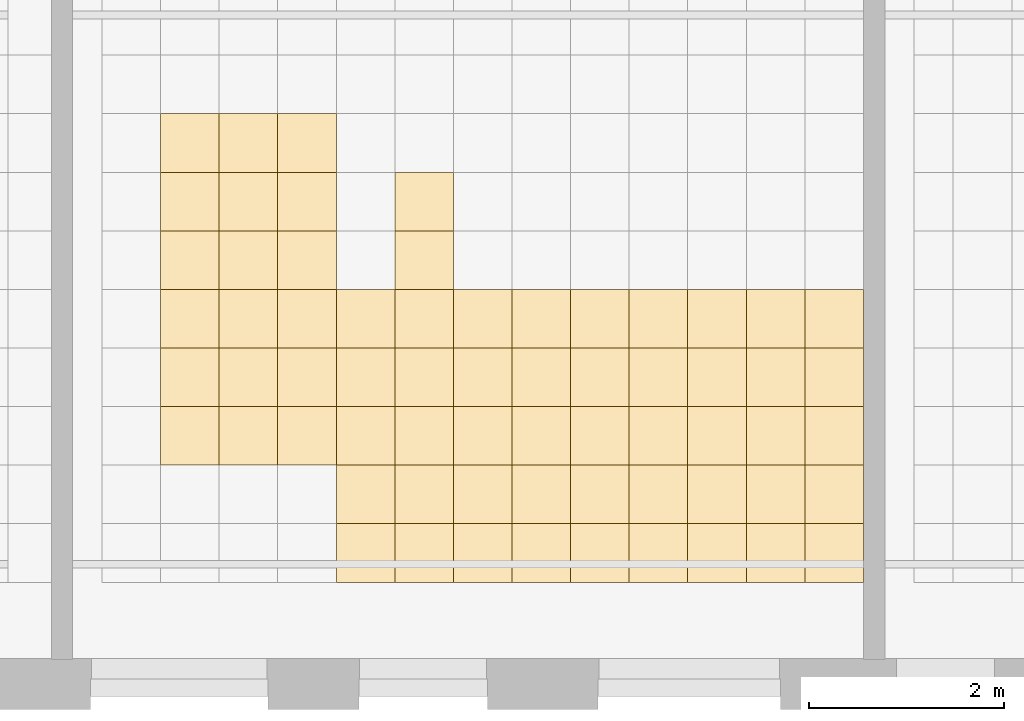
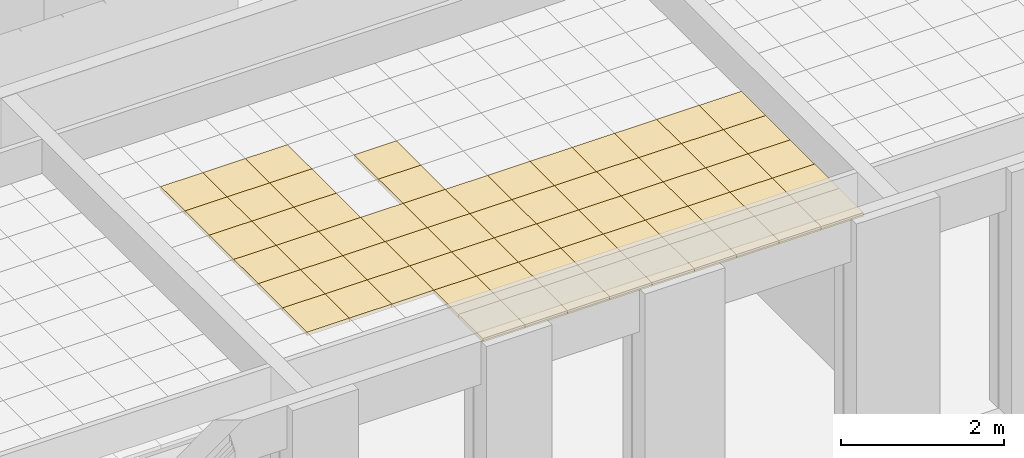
# One storey, part 68 of 79: 65 coverings.
"""IFC2X3 building model written with IfcOpenShell, lengths in millimetres."""

import ifcopenshell
import ifcopenshell.guid

model = None  # the IFC model being written
_history = None  # IfcOwnerHistory: only IFC2X3 demands one
_inside = {}  # id of a spatial element -> (the spatial element, [elements in it])
_under = {}  # id of a project, library or spatial element -> (it, [spatial elements below it])
_declared = {}  # id of a project -> (the project, [libraries it declares])
_typed = {}  # id of a type object -> (the type object, [elements of that type])
_made_of = {}  # id of a material, layer set ... -> (it, [elements and type objects made of it])


def new_model(schema):
    """Start an empty IFC model of exactly this schema.

    Asked for "IFC4X3", IfcOpenShell would pick the latest addendum, in which some entities
    have other attributes; the version numbers below select the first issue.
    IFC2X3 requires an IfcOwnerHistory on every rooted entity: one is made here for all.
    """
    global model, _history
    if schema == "IFC4X3":
        model = ifcopenshell.file(schema_version=(4, 3, 0, 0))
    else:
        model = ifcopenshell.file(schema=schema)
    _inside.clear()
    _under.clear()
    _declared.clear()
    _typed.clear()
    _made_of.clear()
    _history = None
    if model.schema == "IFC2X3":
        org = make("IfcOrganization", Name="unknown")
        user = make(
            "IfcPersonAndOrganization",
            ThePerson=make("IfcPerson", FamilyName="unknown"),
            TheOrganization=org,
        )
        app = make(
            "IfcApplication",
            ApplicationDeveloper=org,
            Version="unknown",
            ApplicationFullName="unknown",
            ApplicationIdentifier="unknown",
        )
        _history = make(
            "IfcOwnerHistory",
            OwningUser=user,
            OwningApplication=app,
            ChangeAction="ADDED",
            CreationDate=0,
        )
    return model


def make(cls, **values):
    """One entity of the class cls with the attributes given. An attribute that is None is left unset."""
    return model.create_entity(
        cls, **{name: value for name, value in values.items() if value is not None}
    )


def entity(cls, *values):
    """Any entity or typed value of the class cls, its attributes in the order of the schema. None: left unset."""
    e = model.create_entity(cls)
    for i, value in enumerate(values):
        if value is not None:
            e[i] = value
    return e


def rooted(cls, **values):
    """An entity with a GlobalId (a new one), such as an element, a storey or a relation."""
    return make(cls, GlobalId=ifcopenshell.guid.new(), OwnerHistory=_history, **values)


def si_unit(unit_type, name, prefix=None):
    """IfcSIUnit, for example si_unit("LENGTHUNIT", "METRE", prefix="MILLI")."""
    return make("IfcSIUnit", UnitType=unit_type, Prefix=prefix, Name=name)


def converted_unit(unit_type, name, factor, base, dimensions=None, offset=None):
    """IfcConversionBasedUnit, such as the inch: factor (a typed value) times the base unit."""
    return make(
        "IfcConversionBasedUnit"
        if offset is None
        else "IfcConversionBasedUnitWithOffset",
        ConversionOffset=offset,
        Dimensions=None
        if dimensions is None
        else entity("IfcDimensionalExponents", *dimensions),
        UnitType=unit_type,
        Name=name,
        ConversionFactor=make(
            "IfcMeasureWithUnit", ValueComponent=factor, UnitComponent=base
        ),
    )


def derived_unit(unit_type, elements):
    """IfcDerivedUnit: a product of units, each with its exponent."""
    return make(
        "IfcDerivedUnit",
        Elements=[
            make("IfcDerivedUnitElement", Unit=unit, Exponent=power)
            for unit, power in elements
        ],
        UnitType=unit_type,
    )


def money_unit(currency):
    """IfcMonetaryUnit."""
    return make("IfcMonetaryUnit", Currency=currency)


def assignment(units):
    """IfcUnitAssignment: the units of a project."""
    return None if units is None else make("IfcUnitAssignment", Units=units)


def point(xyz):
    """IfcCartesianPoint."""
    return None if xyz is None else make("IfcCartesianPoint", Coordinates=xyz)


def direction(xyz):
    """IfcDirection."""
    return None if xyz is None else make("IfcDirection", DirectionRatios=xyz)


def frame(location, z_axis=None, x_axis=None):
    """IfcAxis2Placement3D, a coordinate frame: its origin and axes. An axis left out is left unset."""
    return make(
        "IfcAxis2Placement3D",
        Location=point(location),
        Axis=direction(z_axis),
        RefDirection=direction(x_axis),
    )


def origin_with_axes():
    """The frame at (0, 0, 0) with the z axis (0, 0, 1) and the x axis (1, 0, 0) written out."""
    return frame((0.0, 0.0, 0.0), z_axis=(0.0, 0.0, 1.0), x_axis=(1.0, 0.0, 0.0))


def place(relative_to, where):
    """IfcLocalPlacement: puts the frame where relative to a parent placement (None: the world)."""
    return make(
        "IfcLocalPlacement", PlacementRelTo=relative_to, RelativePlacement=where
    )


def context(
    kind, dimensions, precision=None, world=None, true_north=None, identifier=None
):
    """IfcGeometricRepresentationContext, for example the 3D "Model" context."""
    return make(
        "IfcGeometricRepresentationContext",
        ContextIdentifier=identifier,
        ContextType=kind,
        CoordinateSpaceDimension=dimensions,
        Precision=precision,
        WorldCoordinateSystem=world,
        TrueNorth=true_north,
    )


def subcontext(parent, identifier, kind, view, scale=None):
    """IfcGeometricRepresentationSubContext, for example "Body" below "Model"."""
    return make(
        "IfcGeometricRepresentationSubContext",
        ContextIdentifier=identifier,
        ContextType=kind,
        ParentContext=parent,
        TargetScale=scale,
        TargetView=view,
    )


def project(units=None, contexts=None):
    """IfcProject with its units and contexts."""
    return rooted(
        "IfcProject",
        Name="project",
        RepresentationContexts=contexts,
        UnitsInContext=assignment(units),
    )


def spatial(cls, under=None, at=None, **own):
    """A site, building, storey or space (cls), placed at a placement, below another one or the project."""
    s = rooted(cls, ObjectPlacement=at, **own)
    if under is not None:
        _under.setdefault(under.id(), (under, []))[1].append(s)
    return s


def faces_of(points, faces, orient=None, outer=None):
    """IfcFace entities. A face is a list of loops; a loop is a list of indices into points, from 0.

    orient and outer hold one flag for each loop. By default every Orientation is true, the
    first loop of a face is its IfcFaceOuterBound and the others are IfcFaceBound.
    """
    made = []
    for i, loops in enumerate(faces):
        bounds = []
        for j, loop in enumerate(loops):
            is_outer = j == 0 if outer is None else outer[i][j]
            bounds.append(
                make(
                    "IfcFaceOuterBound" if is_outer else "IfcFaceBound",
                    Bound=make("IfcPolyLoop", Polygon=[points[k] for k in loop]),
                    Orientation=True if orient is None else orient[i][j],
                )
            )
        made.append(make("IfcFace", Bounds=bounds))
    return made


def faceted_brep(points, faces, orient=None, outer=None, voids=None):
    """IfcFacetedBrep: a solid bounded by flat faces; with voids (closed shells), ...WithVoids."""
    shared = [point(p) for p in points]
    hull = make("IfcClosedShell", CfsFaces=faces_of(shared, faces, orient, outer))
    if voids is None:
        return make("IfcFacetedBrep", Outer=hull)
    return make(
        "IfcFacetedBrepWithVoids",
        Outer=hull,
        Voids=[
            make(cls, CfsFaces=faces_of(shared, fs, o, b)) for cls, fs, o, b in voids
        ],
    )


def shape(context_of_items, identifier, shape_type, items):
    """IfcShapeRepresentation: the items that make up one representation, for example the "Body"."""
    return make(
        "IfcShapeRepresentation",
        ContextOfItems=context_of_items,
        RepresentationIdentifier=identifier,
        RepresentationType=shape_type,
        Items=items,
    )


def material(Name=None, Category=None):
    """IfcMaterial."""
    return make("IfcMaterial", Name=Name, Category=Category)


def material_list(materials):
    """IfcMaterialList."""
    return make("IfcMaterialList", Materials=materials)


def made_of(thing, what):
    """Note that an element or type object is made of a material, layer set ...; save() writes the relation."""
    if what is not None:
        _made_of.setdefault(what.id(), (what, []))[1].append(thing)
    return thing


def type_object(cls, material=None, **own):
    """A type object (cls), such as IfcWallType, which elements share."""
    return made_of(rooted(cls, **own), material)


def element(
    cls,
    number,
    at=None,
    inside=None,
    cuts=None,
    type_object=None,
    material=None,
    context=None,
    identifier="Body",
    shape_type=None,
    held_by="IfcProductDefinitionShape",
    body=None,
    shapes=None,
    **own,
):
    """One element of the class cls, such as IfcWall. Its Tag is "e" and its number.

    at: its placement. inside: the storey or other place that contains it. cuts: it is an
    opening in that element (IfcRelVoidsElement). A single representation is given by context,
    identifier, shape_type and body (its items); several are given by shapes. held_by: the class
    of the entity that holds the representations. save() writes the other relations.
    """
    e = rooted(cls, Tag="e%d" % number, ObjectPlacement=at, **own)
    if body is not None:
        shapes = [shape(context, identifier, shape_type, body)]
    if shapes is not None:
        e.Representation = make(held_by, Representations=shapes)
    if inside is not None:
        _inside.setdefault(inside.id(), (inside, []))[1].append(e)
    if cuts is not None:
        rooted(
            "IfcRelVoidsElement", RelatingBuildingElement=cuts, RelatedOpeningElement=e
        )
    if type_object is not None:
        _typed.setdefault(type_object.id(), (type_object, []))[1].append(e)
    return made_of(e, material)


def aggregate(whole, parts):
    """IfcRelAggregates: a whole, such as a stair, and the parts it consists of."""
    return rooted("IfcRelAggregates", RelatingObject=whole, RelatedObjects=parts)


def save(model, path):
    """Write the relations noted so far, then the file.

    IfcRelAggregates (storeys below a building ...), IfcRelContainedInSpatialStructure (elements
    in a storey), IfcRelDefinesByType, IfcRelAssociatesMaterial and IfcRelDeclares: one each for
    every whole, place, type object, material and project.
    """
    for whole, parts in _under.values():
        aggregate(whole, parts)
    for where, things in _inside.values():
        rooted(
            "IfcRelContainedInSpatialStructure",
            RelatedElements=things,
            RelatingStructure=where,
        )
    for kind, things in _typed.values():
        rooted("IfcRelDefinesByType", RelatedObjects=things, RelatingType=kind)
    for what, things in _made_of.values():
        rooted("IfcRelAssociatesMaterial", RelatedObjects=things, RelatingMaterial=what)
    for by, libraries in _declared.values():
        rooted("IfcRelDeclares", RelatingContext=by, RelatedDefinitions=libraries)
    model.write(path)


model = new_model("IFC2X3")

# Units and contexts
model_context = context("Model", 3, precision=0.01, world=origin_with_axes(), true_north=direction((0.0, 1.0)))
body_context = subcontext(model_context, "Body", "Model", "MODEL_VIEW")
ifc_project = project(units=[si_unit("LENGTHUNIT", "METRE", prefix="MILLI"), si_unit("AREAUNIT", "SQUARE_METRE"), si_unit("VOLUMEUNIT", "CUBIC_METRE"), converted_unit("PLANEANGLEUNIT", "DEGREE", entity("IfcPlaneAngleMeasure", 0.0174532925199), si_unit("PLANEANGLEUNIT", "RADIAN"), dimensions=[0, 0, 0, 0, 0, 0, 0]), si_unit("SOLIDANGLEUNIT", "STERADIAN"), money_unit("EUR"), converted_unit("TIMEUNIT", "Year", entity("IfcTimeMeasure", 31556926.0), si_unit("TIMEUNIT", "SECOND"), dimensions=[0, 0, 1, 0, 0, 0, 0]), si_unit("MASSUNIT", "GRAM", prefix="KILO"), si_unit("THERMODYNAMICTEMPERATUREUNIT", "DEGREE_CELSIUS"), si_unit("LUMINOUSINTENSITYUNIT", "LUMEN"), si_unit("ENERGYUNIT", "JOULE", prefix="MEGA"), derived_unit("THERMALCONDUCTANCEUNIT", [(si_unit("POWERUNIT", "WATT"), 1), (si_unit("LENGTHUNIT", "METRE"), -1), (si_unit("THERMODYNAMICTEMPERATUREUNIT", "KELVIN"), -1)]), derived_unit("SPECIFICHEATCAPACITYUNIT", [(si_unit("ENERGYUNIT", "JOULE"), 1), (si_unit("MASSUNIT", "GRAM", prefix="KILO"), -1), (si_unit("THERMODYNAMICTEMPERATUREUNIT", "KELVIN"), -1)]), derived_unit("MASSDENSITYUNIT", [(si_unit("MASSUNIT", "GRAM", prefix="KILO"), 1), (si_unit("VOLUMEUNIT", "CUBIC_METRE"), -1)])], contexts=[model_context])

# Site, building, storey
site_placement = place(None, origin_with_axes())
site = spatial("IfcSite", under=ifc_project, at=site_placement, Name="L.Koidula tn 11b", CompositionType="ELEMENT")
building_placement = place(site_placement, origin_with_axes())
building = spatial("IfcBuilding", under=site, at=building_placement, Name="Rakvere Riigigümnaasium", CompositionType="ELEMENT")
storey_placement = place(building_placement, frame((0.0, 0.0, 3720.0), z_axis=(0.0, 0.0, 1.0), x_axis=(1.0, 0.0, 0.0)))
storey = spatial("IfcBuildingStorey", under=building, at=storey_placement, Name="2.korrus +3,72", CompositionType="ELEMENT", Elevation=3720.0)

# Coverings
ifc_material_1 = material(Name="Karkass")
ifc_material_2 = material(Name="Kipsplaat")
ifc_material_list = material_list([ifc_material_1, ifc_material_2])
covering_type = type_object("IfcCoveringType", Name="SA-LV-Kips-moodul 55", PredefinedType="CEILING")
for number, where, z_axis, x_axis, name in (
    (1, (53609.6770907, 7490.45359412, 2750.0), (0.0, 0.0, 1.0), (1.0, 0.0, 0.0), "L-03"),
    (2, (53609.6770907, 8690.45359412, 2750.0), (0.0, 0.0, 1.0), (1.0, 0.0, 0.0), "L-03"),
    (3, (53609.6770907, 8090.45359412, 2750.0), (0.0, 0.0, 1.0), (1.0, 0.0, 0.0), "L-03"),
    (4, (53609.6770907, 9290.45359412, 2750.0), (0.0, 0.0, 1.0), (1.0, 0.0, 0.0), "L-03"),
    (5, (53609.6770907, 10490.4535941, 2750.0), (0.0, 0.0, 1.0), (1.0, 0.0, 0.0), "L-03"),
    (6, (53609.6770907, 9890.45359412, 2750.0), (0.0, 0.0, 1.0), (1.0, 0.0, 0.0), "L-03"),
):
    element("IfcCovering", number, at=place(storey_placement, frame(where, z_axis=z_axis, x_axis=x_axis)), inside=storey, type_object=covering_type, material=ifc_material_list, Name=name, PredefinedType="CEILING", context=body_context, shape_type="Brep", body=[
        faceted_brep([(599.999948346, 0.0, 12.5), (599.999948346, 0.0, 54.5), (0.0, 0.0, 54.5), (0.0, 0.0, 12.5), (599.999948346, 600.0, 12.5), (599.999948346, 600.0, 54.5), (0.0, 600.0, 54.5), (0.0, 600.0, 12.5)], [[[0, 1, 2, 3]], [[4, 5, 1, 0]], [[2, 1, 5, 6]], [[3, 2, 6, 7]], [[3, 7, 4, 0]], [[7, 6, 5, 4]]]),
        faceted_brep([(0.0, 0.0, 0.0), (599.999948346, 0.0, 0.0), (599.999948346, 0.0, 12.5), (0.0, 0.0, 12.5), (0.0, 600.0, 0.0), (599.999948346, 600.0, 0.0), (599.999948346, 600.0, 12.5), (0.0, 600.0, 12.5)], [[[0, 1, 2, 3]], [[0, 4, 5, 1]], [[1, 5, 6, 2]], [[3, 2, 6, 7]], [[4, 0, 3, 7]], [[5, 4, 7, 6]]]),
    ])
for number, where, z_axis, x_axis, name in (
    (7, (57809.6768841, 8090.45359412, 2750.0), (0.0, 0.0, 1.0), (1.0, 0.0, 0.0), "L-03"),
    (8, (59009.6768324, 8690.45359412, 2750.0), (0.0, 0.0, 1.0), (1.0, 0.0, 0.0), "L-03"),
    (9, (59009.6768324, 8090.45359412, 2750.0), (0.0, 0.0, 1.0), (1.0, 0.0, 0.0), "L-03"),
    (10, (59009.6768324, 7490.45359412, 2750.0), (0.0, 0.0, 1.0), (1.0, 0.0, 0.0), "L-03"),
    (11, (60209.6767808, 7490.45359412, 2750.0), (0.0, 0.0, 1.0), (1.0, 0.0, 0.0), "L-03"),
):
    element("IfcCovering", number, at=place(storey_placement, frame(where, z_axis=z_axis, x_axis=x_axis)), inside=storey, type_object=covering_type, material=ifc_material_list, Name=name, PredefinedType="CEILING", context=body_context, shape_type="Brep", body=[
        faceted_brep([(600.0, 0.0, 12.5), (600.0, 0.0, 54.5), (0.0, 0.0, 54.5), (0.0, 0.0, 12.5), (600.0, 600.0, 12.5), (600.0, 600.0, 54.5), (0.0, 600.0, 54.5), (0.0, 600.0, 12.5)], [[[0, 1, 2, 3]], [[4, 5, 1, 0]], [[2, 1, 5, 6]], [[3, 2, 6, 7]], [[3, 7, 4, 0]], [[7, 6, 5, 4]]]),
        faceted_brep([(0.0, 0.0, 0.0), (600.0, 0.0, 0.0), (600.0, 0.0, 12.5), (0.0, 0.0, 12.5), (0.0, 600.0, 0.0), (600.0, 600.0, 0.0), (600.0, 600.0, 12.5), (0.0, 600.0, 12.5)], [[[0, 1, 2, 3]], [[0, 4, 5, 1]], [[1, 5, 6, 2]], [[3, 2, 6, 7]], [[4, 0, 3, 7]], [[5, 4, 7, 6]]]),
    ])
covering_1_placement = place(storey_placement, frame((59609.6768324, 6890.45359412, 2750.0), z_axis=(0.0, 0.0, 1.0), x_axis=(1.0, 0.0, 0.0)))
element("IfcCovering", 12, at=covering_1_placement, inside=storey, type_object=covering_type, material=ifc_material_list, Name="L-03", PredefinedType="CEILING", context=body_context, shape_type="Brep", body=[
    faceted_brep([(599.999948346, 0.0, 12.5), (599.999948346, 0.0, 54.5), (0.0, 0.0, 54.5), (0.0, 0.0, 12.5), (599.999948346, 600.0, 12.5), (599.999948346, 600.0, 54.5), (0.0, 600.0, 54.5), (0.0, 600.0, 12.5)], [[[0, 1, 2, 3]], [[4, 5, 1, 0]], [[2, 1, 5, 6]], [[3, 2, 6, 7]], [[3, 7, 4, 0]], [[7, 6, 5, 4]]]),
    faceted_brep([(0.0, 0.0, 0.0), (599.999948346, 0.0, 0.0), (599.999948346, 0.0, 12.5), (0.0, 0.0, 12.5), (0.0, 600.0, 0.0), (599.999948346, 600.0, 0.0), (599.999948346, 600.0, 12.5), (0.0, 600.0, 12.5)], [[[0, 1, 2, 3]], [[0, 4, 5, 1]], [[1, 5, 6, 2]], [[3, 2, 6, 7]], [[4, 0, 3, 7]], [[5, 4, 7, 6]]]),
])
covering_2_placement = place(storey_placement, frame((60209.6767808, 8690.45359412, 2750.0), z_axis=(0.0, 0.0, 1.0), x_axis=(1.0, 0.0, 0.0)))
element("IfcCovering", 13, at=covering_2_placement, inside=storey, type_object=covering_type, material=ifc_material_list, Name="L-03", PredefinedType="CEILING", context=body_context, shape_type="Brep", body=[
    faceted_brep([(600.0, 0.0, 12.5), (600.0, 0.0, 54.5), (0.0, 0.0, 54.5), (0.0, 0.0, 12.5), (600.0, 600.0, 12.5), (600.0, 600.0, 54.5), (0.0, 600.0, 54.5), (0.0, 600.0, 12.5)], [[[0, 1, 2, 3]], [[4, 5, 1, 0]], [[2, 1, 5, 6]], [[3, 2, 6, 7]], [[3, 7, 4, 0]], [[7, 6, 5, 4]]]),
    faceted_brep([(0.0, 0.0, 0.0), (600.0, 0.0, 0.0), (600.0, 0.0, 12.5), (0.0, 0.0, 12.5), (0.0, 600.0, 0.0), (600.0, 600.0, 0.0), (600.0, 600.0, 12.5), (0.0, 600.0, 12.5)], [[[0, 1, 2, 3]], [[0, 4, 5, 1]], [[1, 5, 6, 2]], [[3, 2, 6, 7]], [[4, 0, 3, 7]], [[5, 4, 7, 6]]]),
])
covering_3_placement = place(storey_placement, frame((59609.6768324, 6290.45359412, 2750.0), z_axis=(0.0, 0.0, 1.0), x_axis=(1.0, 0.0, 0.0)))
element("IfcCovering", 14, at=covering_3_placement, inside=storey, type_object=covering_type, material=ifc_material_list, Name="L-03", PredefinedType="CEILING", context=body_context, shape_type="Brep", body=[
    faceted_brep([(599.999948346, 0.0, 12.5), (599.999948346, 0.0, 54.5), (0.0, 0.0, 54.5), (0.0, 0.0, 12.5), (599.999948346, 600.0, 12.5), (599.999948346, 600.0, 54.5), (0.0, 600.0, 54.5), (0.0, 600.0, 12.5)], [[[0, 1, 2, 3]], [[4, 5, 1, 0]], [[2, 1, 5, 6]], [[3, 2, 6, 7]], [[3, 7, 4, 0]], [[7, 6, 5, 4]]]),
    faceted_brep([(0.0, 0.0, 0.0), (599.999948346, 0.0, 0.0), (599.999948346, 0.0, 12.5), (0.0, 0.0, 12.5), (0.0, 600.0, 0.0), (599.999948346, 600.0, 0.0), (599.999948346, 600.0, 12.5), (0.0, 600.0, 12.5)], [[[0, 1, 2, 3]], [[0, 4, 5, 1]], [[1, 5, 6, 2]], [[3, 2, 6, 7]], [[4, 0, 3, 7]], [[5, 4, 7, 6]]]),
])
for number, where, z_axis, x_axis, name in (
    (15, (60209.6767808, 8090.45359412, 2750.0), (0.0, 0.0, 1.0), (1.0, 0.0, 0.0), "L-03"),
    (16, (60209.6767808, 6290.45359412, 2750.0), (0.0, 0.0, 1.0), (1.0, 0.0, 0.0), "L-03"),
    (17, (60209.6767808, 6890.45359412, 2750.0), (0.0, 0.0, 1.0), (1.0, 0.0, 0.0), "L-03"),
):
    element("IfcCovering", number, at=place(storey_placement, frame(where, z_axis=z_axis, x_axis=x_axis)), inside=storey, type_object=covering_type, material=ifc_material_list, Name=name, PredefinedType="CEILING", context=body_context, shape_type="Brep", body=[
        faceted_brep([(600.0, 0.0, 12.5), (600.0, 0.0, 54.5), (0.0, 0.0, 54.5), (0.0, 0.0, 12.5), (600.0, 600.0, 12.5), (600.0, 600.0, 54.5), (0.0, 600.0, 54.5), (0.0, 600.0, 12.5)], [[[0, 1, 2, 3]], [[4, 5, 1, 0]], [[2, 1, 5, 6]], [[3, 2, 6, 7]], [[3, 7, 4, 0]], [[7, 6, 5, 4]]]),
        faceted_brep([(0.0, 0.0, 0.0), (600.0, 0.0, 0.0), (600.0, 0.0, 12.5), (0.0, 0.0, 12.5), (0.0, 600.0, 0.0), (600.0, 600.0, 0.0), (600.0, 600.0, 12.5), (0.0, 600.0, 12.5)], [[[0, 1, 2, 3]], [[0, 4, 5, 1]], [[1, 5, 6, 2]], [[3, 2, 6, 7]], [[4, 0, 3, 7]], [[5, 4, 7, 6]]]),
    ])
covering_4_placement = place(storey_placement, frame((59609.6768324, 7490.45359412, 2750.0), z_axis=(0.0, 0.0, 1.0), x_axis=(1.0, 0.0, 0.0)))
element("IfcCovering", 18, at=covering_4_placement, inside=storey, type_object=covering_type, material=ifc_material_list, Name="L-03", PredefinedType="CEILING", context=body_context, shape_type="Brep", body=[
    faceted_brep([(599.999948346, 0.0, 12.5), (599.999948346, 0.0, 54.5), (0.0, 0.0, 54.5), (0.0, 0.0, 12.5), (599.999948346, 600.0, 12.5), (599.999948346, 600.0, 54.5), (0.0, 600.0, 54.5), (0.0, 600.0, 12.5)], [[[0, 1, 2, 3]], [[4, 5, 1, 0]], [[2, 1, 5, 6]], [[3, 2, 6, 7]], [[3, 7, 4, 0]], [[7, 6, 5, 4]]]),
    faceted_brep([(0.0, 0.0, 0.0), (599.999948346, 0.0, 0.0), (599.999948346, 0.0, 12.5), (0.0, 0.0, 12.5), (0.0, 600.0, 0.0), (599.999948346, 600.0, 0.0), (599.999948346, 600.0, 12.5), (0.0, 600.0, 12.5)], [[[0, 1, 2, 3]], [[0, 4, 5, 1]], [[1, 5, 6, 2]], [[3, 2, 6, 7]], [[4, 0, 3, 7]], [[5, 4, 7, 6]]]),
])
covering_5_placement = place(storey_placement, frame((59009.6768324, 6290.45359412, 2750.0), z_axis=(0.0, 0.0, 1.0), x_axis=(1.0, 0.0, 0.0)))
element("IfcCovering", 19, at=covering_5_placement, inside=storey, type_object=covering_type, material=ifc_material_list, Name="L-03", PredefinedType="CEILING", context=body_context, shape_type="Brep", body=[
    faceted_brep([(600.0, 0.0, 12.5), (600.0, 0.0, 54.5), (0.0, 0.0, 54.5), (0.0, 0.0, 12.5), (600.0, 600.0, 12.5), (600.0, 600.0, 54.5), (0.0, 600.0, 54.5), (0.0, 600.0, 12.5)], [[[0, 1, 2, 3]], [[4, 5, 1, 0]], [[2, 1, 5, 6]], [[3, 2, 6, 7]], [[3, 7, 4, 0]], [[7, 6, 5, 4]]]),
    faceted_brep([(0.0, 0.0, 0.0), (600.0, 0.0, 0.0), (600.0, 0.0, 12.5), (0.0, 0.0, 12.5), (0.0, 600.0, 0.0), (600.0, 600.0, 0.0), (600.0, 600.0, 12.5), (0.0, 600.0, 12.5)], [[[0, 1, 2, 3]], [[0, 4, 5, 1]], [[1, 5, 6, 2]], [[3, 2, 6, 7]], [[4, 0, 3, 7]], [[5, 4, 7, 6]]]),
])
covering_6_placement = place(storey_placement, frame((59609.6768324, 8090.45359412, 2750.0), z_axis=(0.0, 0.0, 1.0), x_axis=(1.0, 0.0, 0.0)))
element("IfcCovering", 20, at=covering_6_placement, inside=storey, type_object=covering_type, material=ifc_material_list, Name="L-03", PredefinedType="CEILING", context=body_context, shape_type="Brep", body=[
    faceted_brep([(599.999948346, 0.0, 12.5), (599.999948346, 0.0, 54.5), (0.0, 0.0, 54.5), (0.0, 0.0, 12.5), (599.999948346, 600.0, 12.5), (599.999948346, 600.0, 54.5), (0.0, 600.0, 54.5), (0.0, 600.0, 12.5)], [[[0, 1, 2, 3]], [[4, 5, 1, 0]], [[2, 1, 5, 6]], [[3, 2, 6, 7]], [[3, 7, 4, 0]], [[7, 6, 5, 4]]]),
    faceted_brep([(0.0, 0.0, 0.0), (599.999948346, 0.0, 0.0), (599.999948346, 0.0, 12.5), (0.0, 0.0, 12.5), (0.0, 600.0, 0.0), (599.999948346, 600.0, 0.0), (599.999948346, 600.0, 12.5), (0.0, 600.0, 12.5)], [[[0, 1, 2, 3]], [[0, 4, 5, 1]], [[1, 5, 6, 2]], [[3, 2, 6, 7]], [[4, 0, 3, 7]], [[5, 4, 7, 6]]]),
])
for number, where, z_axis, x_axis, name in (
    (21, (57809.6768841, 8690.45359412, 2750.0), (0.0, 0.0, 1.0), (1.0, 0.0, 0.0), "L-03"),
    (22, (59009.6768324, 6890.45359412, 2750.0), (0.0, 0.0, 1.0), (1.0, 0.0, 0.0), "L-03"),
):
    element("IfcCovering", number, at=place(storey_placement, frame(where, z_axis=z_axis, x_axis=x_axis)), inside=storey, type_object=covering_type, material=ifc_material_list, Name=name, PredefinedType="CEILING", context=body_context, shape_type="Brep", body=[
        faceted_brep([(600.0, 0.0, 12.5), (600.0, 0.0, 54.5), (0.0, 0.0, 54.5), (0.0, 0.0, 12.5), (600.0, 600.0, 12.5), (600.0, 600.0, 54.5), (0.0, 600.0, 54.5), (0.0, 600.0, 12.5)], [[[0, 1, 2, 3]], [[4, 5, 1, 0]], [[2, 1, 5, 6]], [[3, 2, 6, 7]], [[3, 7, 4, 0]], [[7, 6, 5, 4]]]),
        faceted_brep([(0.0, 0.0, 0.0), (600.0, 0.0, 0.0), (600.0, 0.0, 12.5), (0.0, 0.0, 12.5), (0.0, 600.0, 0.0), (600.0, 600.0, 0.0), (600.0, 600.0, 12.5), (0.0, 600.0, 12.5)], [[[0, 1, 2, 3]], [[0, 4, 5, 1]], [[1, 5, 6, 2]], [[3, 2, 6, 7]], [[4, 0, 3, 7]], [[5, 4, 7, 6]]]),
    ])
covering_7_placement = place(storey_placement, frame((59609.6768324, 8690.45359412, 2750.0), z_axis=(0.0, 0.0, 1.0), x_axis=(1.0, 0.0, 0.0)))
element("IfcCovering", 23, at=covering_7_placement, inside=storey, type_object=covering_type, material=ifc_material_list, Name="L-03", PredefinedType="CEILING", context=body_context, shape_type="Brep", body=[
    faceted_brep([(599.999948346, 0.0, 12.5), (599.999948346, 0.0, 54.5), (0.0, 0.0, 54.5), (0.0, 0.0, 12.5), (599.999948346, 600.0, 12.5), (599.999948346, 600.0, 54.5), (0.0, 600.0, 54.5), (0.0, 600.0, 12.5)], [[[0, 1, 2, 3]], [[4, 5, 1, 0]], [[2, 1, 5, 6]], [[3, 2, 6, 7]], [[3, 7, 4, 0]], [[7, 6, 5, 4]]]),
    faceted_brep([(0.0, 0.0, 0.0), (599.999948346, 0.0, 0.0), (599.999948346, 0.0, 12.5), (0.0, 0.0, 12.5), (0.0, 600.0, 0.0), (599.999948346, 600.0, 0.0), (599.999948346, 600.0, 12.5), (0.0, 600.0, 12.5)], [[[0, 1, 2, 3]], [[0, 4, 5, 1]], [[1, 5, 6, 2]], [[3, 2, 6, 7]], [[4, 0, 3, 7]], [[5, 4, 7, 6]]]),
])
for number, where, z_axis, x_axis, name in (
    (24, (57809.6768841, 6290.45359412, 2750.0), (0.0, 0.0, 1.0), (1.0, 0.0, 0.0), "L-03"),
    (25, (57809.6768841, 6890.45359412, 2750.0), (0.0, 0.0, 1.0), (1.0, 0.0, 0.0), "L-03"),
):
    element("IfcCovering", number, at=place(storey_placement, frame(where, z_axis=z_axis, x_axis=x_axis)), inside=storey, type_object=covering_type, material=ifc_material_list, Name=name, PredefinedType="CEILING", context=body_context, shape_type="Brep", body=[
        faceted_brep([(600.0, 0.0, 12.5), (600.0, 0.0, 54.5), (0.0, 0.0, 54.5), (0.0, 0.0, 12.5), (600.0, 600.0, 12.5), (600.0, 600.0, 54.5), (0.0, 600.0, 54.5), (0.0, 600.0, 12.5)], [[[0, 1, 2, 3]], [[4, 5, 1, 0]], [[2, 1, 5, 6]], [[3, 2, 6, 7]], [[3, 7, 4, 0]], [[7, 6, 5, 4]]]),
        faceted_brep([(0.0, 0.0, 0.0), (600.0, 0.0, 0.0), (600.0, 0.0, 12.5), (0.0, 0.0, 12.5), (0.0, 600.0, 0.0), (600.0, 600.0, 0.0), (600.0, 600.0, 12.5), (0.0, 600.0, 12.5)], [[[0, 1, 2, 3]], [[0, 4, 5, 1]], [[1, 5, 6, 2]], [[3, 2, 6, 7]], [[4, 0, 3, 7]], [[5, 4, 7, 6]]]),
    ])
for number, where, z_axis, x_axis, name in (
    (26, (56009.6769874, 6290.45359412, 2750.0), (0.0, 0.0, 1.0), (1.0, 0.0, 0.0), "L-03"),
    (27, (58409.6768841, 6290.45359412, 2750.0), (0.0, 0.0, 1.0), (1.0, 0.0, 0.0), "L-03"),
    (28, (54809.677039, 10490.4535941, 2750.0), (0.0, 0.0, 1.0), (1.0, 0.0, 0.0), "L-03"),
    (29, (56009.6769874, 7490.45359412, 2750.0), (0.0, 0.0, 1.0), (1.0, 0.0, 0.0), "L-03"),
    (30, (54809.677039, 9890.45359412, 2750.0), (0.0, 0.0, 1.0), (1.0, 0.0, 0.0), "L-03"),
    (31, (56009.6769874, 8090.45359412, 2750.0), (0.0, 0.0, 1.0), (1.0, 0.0, 0.0), "L-03"),
    (32, (58409.6768841, 7490.45359412, 2750.0), (0.0, 0.0, 1.0), (1.0, 0.0, 0.0), "L-03"),
    (33, (56009.6769874, 9290.45359412, 2750.0), (0.0, 0.0, 1.0), (1.0, 0.0, 0.0), "L-03"),
    (34, (56009.6769874, 8690.45359412, 2750.0), (0.0, 0.0, 1.0), (1.0, 0.0, 0.0), "L-03"),
    (35, (56009.6769874, 9890.45359412, 2750.0), (0.0, 0.0, 1.0), (1.0, 0.0, 0.0), "L-03"),
    (36, (58409.6768841, 8090.45359412, 2750.0), (0.0, 0.0, 1.0), (1.0, 0.0, 0.0), "L-03"),
    (37, (58409.6768841, 8690.45359412, 2750.0), (0.0, 0.0, 1.0), (1.0, 0.0, 0.0), "L-03"),
    (38, (54809.677039, 9290.45359412, 2750.0), (0.0, 0.0, 1.0), (1.0, 0.0, 0.0), "L-03"),
):
    element("IfcCovering", number, at=place(storey_placement, frame(where, z_axis=z_axis, x_axis=x_axis)), inside=storey, type_object=covering_type, material=ifc_material_list, Name=name, PredefinedType="CEILING", context=body_context, shape_type="Brep", body=[
        faceted_brep([(599.999948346, 0.0, 12.5), (599.999948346, 0.0, 54.5), (0.0, 0.0, 54.5), (0.0, 0.0, 12.5), (599.999948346, 600.0, 12.5), (599.999948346, 600.0, 54.5), (0.0, 600.0, 54.5), (0.0, 600.0, 12.5)], [[[0, 1, 2, 3]], [[4, 5, 1, 0]], [[2, 1, 5, 6]], [[3, 2, 6, 7]], [[3, 7, 4, 0]], [[7, 6, 5, 4]]]),
        faceted_brep([(0.0, 0.0, 0.0), (599.999948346, 0.0, 0.0), (599.999948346, 0.0, 12.5), (0.0, 0.0, 12.5), (0.0, 600.0, 0.0), (599.999948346, 600.0, 0.0), (599.999948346, 600.0, 12.5), (0.0, 600.0, 12.5)], [[[0, 1, 2, 3]], [[0, 4, 5, 1]], [[1, 5, 6, 2]], [[3, 2, 6, 7]], [[4, 0, 3, 7]], [[5, 4, 7, 6]]]),
    ])
for number, where, z_axis, x_axis, name in (
    (39, (54209.677039, 9290.45359412, 2750.0), (0.0, 0.0, 1.0), (1.0, 0.0, 0.0), "L-03"),
    (40, (54209.677039, 9890.45359412, 2750.0), (0.0, 0.0, 1.0), (1.0, 0.0, 0.0), "L-03"),
    (41, (56609.6769357, 6890.45359412, 2750.0), (0.0, 0.0, 1.0), (1.0, 0.0, 0.0), "L-03"),
    (42, (54209.677039, 10490.4535941, 2750.0), (0.0, 0.0, 1.0), (1.0, 0.0, 0.0), "L-03"),
):
    element("IfcCovering", number, at=place(storey_placement, frame(where, z_axis=z_axis, x_axis=x_axis)), inside=storey, type_object=covering_type, material=ifc_material_list, Name=name, PredefinedType="CEILING", context=body_context, shape_type="Brep", body=[
        faceted_brep([(600.0, 0.0, 12.5), (600.0, 0.0, 54.5), (0.0, 0.0, 54.5), (0.0, 0.0, 12.5), (600.0, 600.0, 12.5), (600.0, 600.0, 54.5), (0.0, 600.0, 54.5), (0.0, 600.0, 12.5)], [[[0, 1, 2, 3]], [[4, 5, 1, 0]], [[2, 1, 5, 6]], [[3, 2, 6, 7]], [[3, 7, 4, 0]], [[7, 6, 5, 4]]]),
        faceted_brep([(0.0, 0.0, 0.0), (600.0, 0.0, 0.0), (600.0, 0.0, 12.5), (0.0, 0.0, 12.5), (0.0, 600.0, 0.0), (600.0, 600.0, 0.0), (600.0, 600.0, 12.5), (0.0, 600.0, 12.5)], [[[0, 1, 2, 3]], [[0, 4, 5, 1]], [[1, 5, 6, 2]], [[3, 2, 6, 7]], [[4, 0, 3, 7]], [[5, 4, 7, 6]]]),
    ])
covering_8_placement = place(storey_placement, frame((54809.677039, 8690.45359412, 2750.0), z_axis=(0.0, 0.0, 1.0), x_axis=(1.0, 0.0, 0.0)))
element("IfcCovering", 43, at=covering_8_placement, inside=storey, type_object=covering_type, material=ifc_material_list, Name="L-03", PredefinedType="CEILING", context=body_context, shape_type="Brep", body=[
    faceted_brep([(599.999948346, 0.0, 12.5), (599.999948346, 0.0, 54.5), (0.0, 0.0, 54.5), (0.0, 0.0, 12.5), (599.999948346, 600.0, 12.5), (599.999948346, 600.0, 54.5), (0.0, 600.0, 54.5), (0.0, 600.0, 12.5)], [[[0, 1, 2, 3]], [[4, 5, 1, 0]], [[2, 1, 5, 6]], [[3, 2, 6, 7]], [[3, 7, 4, 0]], [[7, 6, 5, 4]]]),
    faceted_brep([(0.0, 0.0, 0.0), (599.999948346, 0.0, 0.0), (599.999948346, 0.0, 12.5), (0.0, 0.0, 12.5), (0.0, 600.0, 0.0), (599.999948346, 600.0, 0.0), (599.999948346, 600.0, 12.5), (0.0, 600.0, 12.5)], [[[0, 1, 2, 3]], [[0, 4, 5, 1]], [[1, 5, 6, 2]], [[3, 2, 6, 7]], [[4, 0, 3, 7]], [[5, 4, 7, 6]]]),
])
for number, where, z_axis, x_axis, name in (
    (44, (56609.6769357, 6290.45359412, 2750.0), (0.0, 0.0, 1.0), (1.0, 0.0, 0.0), "L-03"),
    (45, (55409.6769874, 8090.45359412, 2750.0), (0.0, 0.0, 1.0), (1.0, 0.0, 0.0), "L-03"),
    (46, (55409.6769874, 7490.45359412, 2750.0), (0.0, 0.0, 1.0), (1.0, 0.0, 0.0), "L-03"),
):
    element("IfcCovering", number, at=place(storey_placement, frame(where, z_axis=z_axis, x_axis=x_axis)), inside=storey, type_object=covering_type, material=ifc_material_list, Name=name, PredefinedType="CEILING", context=body_context, shape_type="Brep", body=[
        faceted_brep([(600.0, 0.0, 12.5), (600.0, 0.0, 54.5), (0.0, 0.0, 54.5), (0.0, 0.0, 12.5), (600.0, 600.0, 12.5), (600.0, 600.0, 54.5), (0.0, 600.0, 54.5), (0.0, 600.0, 12.5)], [[[0, 1, 2, 3]], [[4, 5, 1, 0]], [[2, 1, 5, 6]], [[3, 2, 6, 7]], [[3, 7, 4, 0]], [[7, 6, 5, 4]]]),
        faceted_brep([(0.0, 0.0, 0.0), (600.0, 0.0, 0.0), (600.0, 0.0, 12.5), (0.0, 0.0, 12.5), (0.0, 600.0, 0.0), (600.0, 600.0, 0.0), (600.0, 600.0, 12.5), (0.0, 600.0, 12.5)], [[[0, 1, 2, 3]], [[0, 4, 5, 1]], [[1, 5, 6, 2]], [[3, 2, 6, 7]], [[4, 0, 3, 7]], [[5, 4, 7, 6]]]),
    ])
for number, where, z_axis, x_axis, name in (
    (47, (56009.6769874, 6890.45359412, 2750.0), (0.0, 0.0, 1.0), (1.0, 0.0, 0.0), "L-03"),
    (48, (54809.677039, 8090.45359412, 2750.0), (0.0, 0.0, 1.0), (1.0, 0.0, 0.0), "L-03"),
):
    element("IfcCovering", number, at=place(storey_placement, frame(where, z_axis=z_axis, x_axis=x_axis)), inside=storey, type_object=covering_type, material=ifc_material_list, Name=name, PredefinedType="CEILING", context=body_context, shape_type="Brep", body=[
        faceted_brep([(599.999948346, 0.0, 12.5), (599.999948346, 0.0, 54.5), (0.0, 0.0, 54.5), (0.0, 0.0, 12.5), (599.999948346, 600.0, 12.5), (599.999948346, 600.0, 54.5), (0.0, 600.0, 54.5), (0.0, 600.0, 12.5)], [[[0, 1, 2, 3]], [[4, 5, 1, 0]], [[2, 1, 5, 6]], [[3, 2, 6, 7]], [[3, 7, 4, 0]], [[7, 6, 5, 4]]]),
        faceted_brep([(0.0, 0.0, 0.0), (599.999948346, 0.0, 0.0), (599.999948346, 0.0, 12.5), (0.0, 0.0, 12.5), (0.0, 600.0, 0.0), (599.999948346, 600.0, 0.0), (599.999948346, 600.0, 12.5), (0.0, 600.0, 12.5)], [[[0, 1, 2, 3]], [[0, 4, 5, 1]], [[1, 5, 6, 2]], [[3, 2, 6, 7]], [[4, 0, 3, 7]], [[5, 4, 7, 6]]]),
    ])
for number, where, z_axis, x_axis, name in (
    (49, (55409.6769874, 6290.45359412, 2750.0), (0.0, 0.0, 1.0), (1.0, 0.0, 0.0), "L-03"),
    (50, (56609.6769357, 8690.45359412, 2750.0), (0.0, 0.0, 1.0), (1.0, 0.0, 0.0), "L-03"),
    (51, (56609.6769357, 8090.45359412, 2750.0), (0.0, 0.0, 1.0), (1.0, 0.0, 0.0), "L-03"),
):
    element("IfcCovering", number, at=place(storey_placement, frame(where, z_axis=z_axis, x_axis=x_axis)), inside=storey, type_object=covering_type, material=ifc_material_list, Name=name, PredefinedType="CEILING", context=body_context, shape_type="Brep", body=[
        faceted_brep([(600.0, 0.0, 12.5), (600.0, 0.0, 54.5), (0.0, 0.0, 54.5), (0.0, 0.0, 12.5), (600.0, 600.0, 12.5), (600.0, 600.0, 54.5), (0.0, 600.0, 54.5), (0.0, 600.0, 12.5)], [[[0, 1, 2, 3]], [[4, 5, 1, 0]], [[2, 1, 5, 6]], [[3, 2, 6, 7]], [[3, 7, 4, 0]], [[7, 6, 5, 4]]]),
        faceted_brep([(0.0, 0.0, 0.0), (600.0, 0.0, 0.0), (600.0, 0.0, 12.5), (0.0, 0.0, 12.5), (0.0, 600.0, 0.0), (600.0, 600.0, 0.0), (600.0, 600.0, 12.5), (0.0, 600.0, 12.5)], [[[0, 1, 2, 3]], [[0, 4, 5, 1]], [[1, 5, 6, 2]], [[3, 2, 6, 7]], [[4, 0, 3, 7]], [[5, 4, 7, 6]]]),
    ])
covering_9_placement = place(storey_placement, frame((58409.6768841, 6890.45359412, 2750.0), z_axis=(0.0, 0.0, 1.0), x_axis=(1.0, 0.0, 0.0)))
element("IfcCovering", 52, at=covering_9_placement, inside=storey, type_object=covering_type, material=ifc_material_list, Name="L-03", PredefinedType="CEILING", context=body_context, shape_type="Brep", body=[
    faceted_brep([(599.999948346, 0.0, 12.5), (599.999948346, 0.0, 54.5), (0.0, 0.0, 54.5), (0.0, 0.0, 12.5), (599.999948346, 600.0, 12.5), (599.999948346, 600.0, 54.5), (0.0, 600.0, 54.5), (0.0, 600.0, 12.5)], [[[0, 1, 2, 3]], [[4, 5, 1, 0]], [[2, 1, 5, 6]], [[3, 2, 6, 7]], [[3, 7, 4, 0]], [[7, 6, 5, 4]]]),
    faceted_brep([(0.0, 0.0, 0.0), (599.999948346, 0.0, 0.0), (599.999948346, 0.0, 12.5), (0.0, 0.0, 12.5), (0.0, 600.0, 0.0), (599.999948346, 600.0, 0.0), (599.999948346, 600.0, 12.5), (0.0, 600.0, 12.5)], [[[0, 1, 2, 3]], [[0, 4, 5, 1]], [[1, 5, 6, 2]], [[3, 2, 6, 7]], [[4, 0, 3, 7]], [[5, 4, 7, 6]]]),
])
covering_10_placement = place(storey_placement, frame((56609.6769357, 7490.45359412, 2750.0), z_axis=(0.0, 0.0, 1.0), x_axis=(1.0, 0.0, 0.0)))
element("IfcCovering", 53, at=covering_10_placement, inside=storey, type_object=covering_type, material=ifc_material_list, Name="L-03", PredefinedType="CEILING", context=body_context, shape_type="Brep", body=[
    faceted_brep([(600.0, 0.0, 12.5), (600.0, 0.0, 54.5), (0.0, 0.0, 54.5), (0.0, 0.0, 12.5), (600.0, 600.0, 12.5), (600.0, 600.0, 54.5), (0.0, 600.0, 54.5), (0.0, 600.0, 12.5)], [[[0, 1, 2, 3]], [[4, 5, 1, 0]], [[2, 1, 5, 6]], [[3, 2, 6, 7]], [[3, 7, 4, 0]], [[7, 6, 5, 4]]]),
    faceted_brep([(0.0, 0.0, 0.0), (600.0, 0.0, 0.0), (600.0, 0.0, 12.5), (0.0, 0.0, 12.5), (0.0, 600.0, 0.0), (600.0, 600.0, 0.0), (600.0, 600.0, 12.5), (0.0, 600.0, 12.5)], [[[0, 1, 2, 3]], [[0, 4, 5, 1]], [[1, 5, 6, 2]], [[3, 2, 6, 7]], [[4, 0, 3, 7]], [[5, 4, 7, 6]]]),
])
for number, where, z_axis, x_axis, name in (
    (54, (57209.6769357, 6890.45359412, 2750.0), (0.0, 0.0, 1.0), (1.0, 0.0, 0.0), "L-03"),
    (55, (57209.6769357, 6290.45359412, 2750.0), (0.0, 0.0, 1.0), (1.0, 0.0, 0.0), "L-03"),
):
    element("IfcCovering", number, at=place(storey_placement, frame(where, z_axis=z_axis, x_axis=x_axis)), inside=storey, type_object=covering_type, material=ifc_material_list, Name=name, PredefinedType="CEILING", context=body_context, shape_type="Brep", body=[
        faceted_brep([(599.999948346, 0.0, 12.5), (599.999948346, 0.0, 54.5), (0.0, 0.0, 54.5), (0.0, 0.0, 12.5), (599.999948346, 600.0, 12.5), (599.999948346, 600.0, 54.5), (0.0, 600.0, 54.5), (0.0, 600.0, 12.5)], [[[0, 1, 2, 3]], [[4, 5, 1, 0]], [[2, 1, 5, 6]], [[3, 2, 6, 7]], [[3, 7, 4, 0]], [[7, 6, 5, 4]]]),
        faceted_brep([(0.0, 0.0, 0.0), (599.999948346, 0.0, 0.0), (599.999948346, 0.0, 12.5), (0.0, 0.0, 12.5), (0.0, 600.0, 0.0), (599.999948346, 600.0, 0.0), (599.999948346, 600.0, 12.5), (0.0, 600.0, 12.5)], [[[0, 1, 2, 3]], [[0, 4, 5, 1]], [[1, 5, 6, 2]], [[3, 2, 6, 7]], [[4, 0, 3, 7]], [[5, 4, 7, 6]]]),
    ])
for number, where, z_axis, x_axis, name in (
    (56, (55409.6769874, 6890.45359412, 2750.0), (0.0, 0.0, 1.0), (1.0, 0.0, 0.0), "L-03"),
    (57, (55409.6769874, 8690.45359412, 2750.0), (0.0, 0.0, 1.0), (1.0, 0.0, 0.0), "L-03"),
    (58, (57809.6768841, 7490.45359412, 2750.0), (0.0, 0.0, 1.0), (1.0, 0.0, 0.0), "L-03"),
):
    element("IfcCovering", number, at=place(storey_placement, frame(where, z_axis=z_axis, x_axis=x_axis)), inside=storey, type_object=covering_type, material=ifc_material_list, Name=name, PredefinedType="CEILING", context=body_context, shape_type="Brep", body=[
        faceted_brep([(600.0, 0.0, 12.5), (600.0, 0.0, 54.5), (0.0, 0.0, 54.5), (0.0, 0.0, 12.5), (600.0, 600.0, 12.5), (600.0, 600.0, 54.5), (0.0, 600.0, 54.5), (0.0, 600.0, 12.5)], [[[0, 1, 2, 3]], [[4, 5, 1, 0]], [[2, 1, 5, 6]], [[3, 2, 6, 7]], [[3, 7, 4, 0]], [[7, 6, 5, 4]]]),
        faceted_brep([(0.0, 0.0, 0.0), (600.0, 0.0, 0.0), (600.0, 0.0, 12.5), (0.0, 0.0, 12.5), (0.0, 600.0, 0.0), (600.0, 600.0, 0.0), (600.0, 600.0, 12.5), (0.0, 600.0, 12.5)], [[[0, 1, 2, 3]], [[0, 4, 5, 1]], [[1, 5, 6, 2]], [[3, 2, 6, 7]], [[4, 0, 3, 7]], [[5, 4, 7, 6]]]),
    ])
for number, where, z_axis, x_axis, name in (
    (59, (57209.6769357, 8090.45359412, 2750.0), (0.0, 0.0, 1.0), (1.0, 0.0, 0.0), "L-03"),
    (60, (54809.677039, 7490.45359412, 2750.0), (0.0, 0.0, 1.0), (1.0, 0.0, 0.0), "L-03"),
):
    element("IfcCovering", number, at=place(storey_placement, frame(where, z_axis=z_axis, x_axis=x_axis)), inside=storey, type_object=covering_type, material=ifc_material_list, Name=name, PredefinedType="CEILING", context=body_context, shape_type="Brep", body=[
        faceted_brep([(599.999948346, 0.0, 12.5), (599.999948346, 0.0, 54.5), (0.0, 0.0, 54.5), (0.0, 0.0, 12.5), (599.999948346, 600.0, 12.5), (599.999948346, 600.0, 54.5), (0.0, 600.0, 54.5), (0.0, 600.0, 12.5)], [[[0, 1, 2, 3]], [[4, 5, 1, 0]], [[2, 1, 5, 6]], [[3, 2, 6, 7]], [[3, 7, 4, 0]], [[7, 6, 5, 4]]]),
        faceted_brep([(0.0, 0.0, 0.0), (599.999948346, 0.0, 0.0), (599.999948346, 0.0, 12.5), (0.0, 0.0, 12.5), (0.0, 600.0, 0.0), (599.999948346, 600.0, 0.0), (599.999948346, 600.0, 12.5), (0.0, 600.0, 12.5)], [[[0, 1, 2, 3]], [[0, 4, 5, 1]], [[1, 5, 6, 2]], [[3, 2, 6, 7]], [[4, 0, 3, 7]], [[5, 4, 7, 6]]]),
    ])
covering_11_placement = place(storey_placement, frame((54209.677039, 8690.45359412, 2750.0), z_axis=(0.0, 0.0, 1.0), x_axis=(1.0, 0.0, 0.0)))
element("IfcCovering", 61, at=covering_11_placement, inside=storey, type_object=covering_type, material=ifc_material_list, Name="L-03", PredefinedType="CEILING", context=body_context, shape_type="Brep", body=[
    faceted_brep([(600.0, 0.0, 12.5), (600.0, 0.0, 54.5), (0.0, 0.0, 54.5), (0.0, 0.0, 12.5), (600.0, 600.0, 12.5), (600.0, 600.0, 54.5), (0.0, 600.0, 54.5), (0.0, 600.0, 12.5)], [[[0, 1, 2, 3]], [[4, 5, 1, 0]], [[2, 1, 5, 6]], [[3, 2, 6, 7]], [[3, 7, 4, 0]], [[7, 6, 5, 4]]]),
    faceted_brep([(0.0, 0.0, 0.0), (600.0, 0.0, 0.0), (600.0, 0.0, 12.5), (0.0, 0.0, 12.5), (0.0, 600.0, 0.0), (600.0, 600.0, 0.0), (600.0, 600.0, 12.5), (0.0, 600.0, 12.5)], [[[0, 1, 2, 3]], [[0, 4, 5, 1]], [[1, 5, 6, 2]], [[3, 2, 6, 7]], [[4, 0, 3, 7]], [[5, 4, 7, 6]]]),
])
covering_12_placement = place(storey_placement, frame((57209.6769357, 8690.45359412, 2750.0), z_axis=(0.0, 0.0, 1.0), x_axis=(1.0, 0.0, 0.0)))
element("IfcCovering", 62, at=covering_12_placement, inside=storey, type_object=covering_type, material=ifc_material_list, Name="L-03", PredefinedType="CEILING", context=body_context, shape_type="Brep", body=[
    faceted_brep([(599.999948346, 0.0, 12.5), (599.999948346, 0.0, 54.5), (0.0, 0.0, 54.5), (0.0, 0.0, 12.5), (599.999948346, 600.0, 12.5), (599.999948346, 600.0, 54.5), (0.0, 600.0, 54.5), (0.0, 600.0, 12.5)], [[[0, 1, 2, 3]], [[4, 5, 1, 0]], [[2, 1, 5, 6]], [[3, 2, 6, 7]], [[3, 7, 4, 0]], [[7, 6, 5, 4]]]),
    faceted_brep([(0.0, 0.0, 0.0), (599.999948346, 0.0, 0.0), (599.999948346, 0.0, 12.5), (0.0, 0.0, 12.5), (0.0, 600.0, 0.0), (599.999948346, 600.0, 0.0), (599.999948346, 600.0, 12.5), (0.0, 600.0, 12.5)], [[[0, 1, 2, 3]], [[0, 4, 5, 1]], [[1, 5, 6, 2]], [[3, 2, 6, 7]], [[4, 0, 3, 7]], [[5, 4, 7, 6]]]),
])
covering_13_placement = place(storey_placement, frame((54209.677039, 7490.45359412, 2750.0), z_axis=(0.0, 0.0, 1.0), x_axis=(1.0, 0.0, 0.0)))
element("IfcCovering", 63, at=covering_13_placement, inside=storey, type_object=covering_type, material=ifc_material_list, Name="L-03", PredefinedType="CEILING", context=body_context, shape_type="Brep", body=[
    faceted_brep([(600.0, 0.0, 12.5), (600.0, 0.0, 54.5), (0.0, 0.0, 54.5), (0.0, 0.0, 12.5), (600.0, 600.0, 12.5), (600.0, 600.0, 54.5), (0.0, 600.0, 54.5), (0.0, 600.0, 12.5)], [[[0, 1, 2, 3]], [[4, 5, 1, 0]], [[2, 1, 5, 6]], [[3, 2, 6, 7]], [[3, 7, 4, 0]], [[7, 6, 5, 4]]]),
    faceted_brep([(0.0, 0.0, 0.0), (600.0, 0.0, 0.0), (600.0, 0.0, 12.5), (0.0, 0.0, 12.5), (0.0, 600.0, 0.0), (600.0, 600.0, 0.0), (600.0, 600.0, 12.5), (0.0, 600.0, 12.5)], [[[0, 1, 2, 3]], [[0, 4, 5, 1]], [[1, 5, 6, 2]], [[3, 2, 6, 7]], [[4, 0, 3, 7]], [[5, 4, 7, 6]]]),
])
covering_14_placement = place(storey_placement, frame((57209.6769357, 7490.45359412, 2750.0), z_axis=(0.0, 0.0, 1.0), x_axis=(1.0, 0.0, 0.0)))
element("IfcCovering", 64, at=covering_14_placement, inside=storey, type_object=covering_type, material=ifc_material_list, Name="L-03", PredefinedType="CEILING", context=body_context, shape_type="Brep", body=[
    faceted_brep([(599.999948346, 0.0, 12.5), (599.999948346, 0.0, 54.5), (0.0, 0.0, 54.5), (0.0, 0.0, 12.5), (599.999948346, 600.0, 12.5), (599.999948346, 600.0, 54.5), (0.0, 600.0, 54.5), (0.0, 600.0, 12.5)], [[[0, 1, 2, 3]], [[4, 5, 1, 0]], [[2, 1, 5, 6]], [[3, 2, 6, 7]], [[3, 7, 4, 0]], [[7, 6, 5, 4]]]),
    faceted_brep([(0.0, 0.0, 0.0), (599.999948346, 0.0, 0.0), (599.999948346, 0.0, 12.5), (0.0, 0.0, 12.5), (0.0, 600.0, 0.0), (599.999948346, 600.0, 0.0), (599.999948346, 600.0, 12.5), (0.0, 600.0, 12.5)], [[[0, 1, 2, 3]], [[0, 4, 5, 1]], [[1, 5, 6, 2]], [[3, 2, 6, 7]], [[4, 0, 3, 7]], [[5, 4, 7, 6]]]),
])
covering_15_placement = place(storey_placement, frame((54209.677039, 8090.45359412, 2750.0), z_axis=(0.0, 0.0, 1.0), x_axis=(1.0, 0.0, 0.0)))
element("IfcCovering", 65, at=covering_15_placement, inside=storey, type_object=covering_type, material=ifc_material_list, Name="L-03", PredefinedType="CEILING", context=body_context, shape_type="Brep", body=[
    faceted_brep([(600.0, 0.0, 12.5), (600.0, 0.0, 54.5), (0.0, 0.0, 54.5), (0.0, 0.0, 12.5), (600.0, 600.0, 12.5), (600.0, 600.0, 54.5), (0.0, 600.0, 54.5), (0.0, 600.0, 12.5)], [[[0, 1, 2, 3]], [[4, 5, 1, 0]], [[2, 1, 5, 6]], [[3, 2, 6, 7]], [[3, 7, 4, 0]], [[7, 6, 5, 4]]]),
    faceted_brep([(0.0, 0.0, 0.0), (600.0, 0.0, 0.0), (600.0, 0.0, 12.5), (0.0, 0.0, 12.5), (0.0, 600.0, 0.0), (600.0, 600.0, 0.0), (600.0, 600.0, 12.5), (0.0, 600.0, 12.5)], [[[0, 1, 2, 3]], [[0, 4, 5, 1]], [[1, 5, 6, 2]], [[3, 2, 6, 7]], [[4, 0, 3, 7]], [[5, 4, 7, 6]]]),
])

save(model, "model.ifc")
